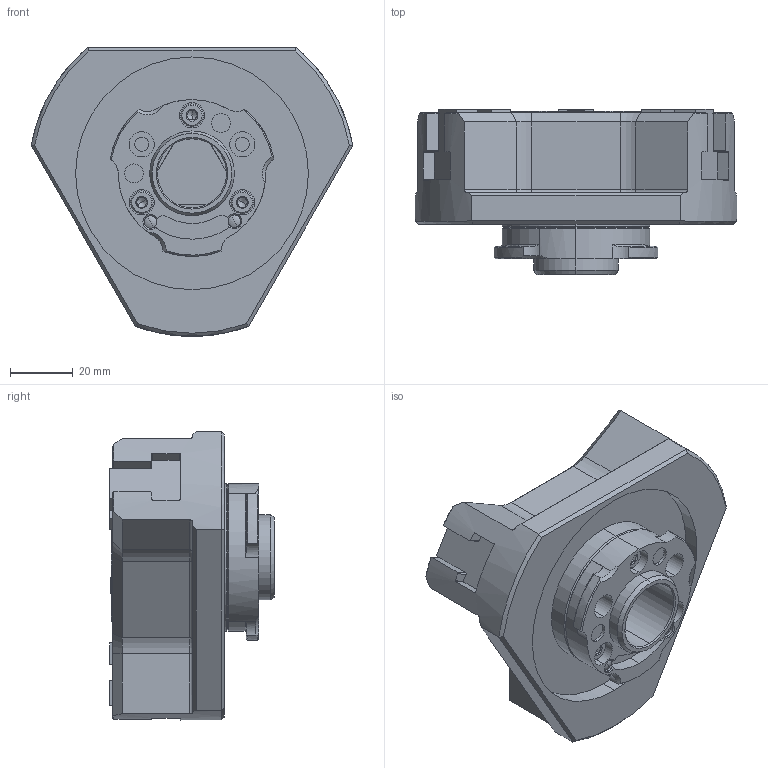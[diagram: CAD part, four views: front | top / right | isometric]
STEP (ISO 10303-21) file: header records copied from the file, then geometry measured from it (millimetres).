
FILE_DESCRIPTION (( 'STEP AP214' ), '1' );
FILE_NAME ('HP-QGL30610-Assy-61G856542-20241125-HCL.STEP', '2024-11-25T02:51:00', ( '' ), ( '' ), 'SwSTEP 2.0', 'SolidWorks 2022', '' );
FILE_SCHEMA (( 'AUTOMOTIVE_DESIGN' ));
Length unit declared in the file: millimetre
Products named in the file (8): COVER^HP-QGL30610; BODY^HP-QGL30610; BOLT^HP-QGL30610; KNOCK PIN^HP-QGL30610; MASTER JAW^HP-QGL30610; RING^HP-QGL30610; HP-QGL30610-Assy-61G856542-20241125-HCL; S-SARA^HP-QGL30610
Assembly tree (14 placements, depth 2):
  HP-QGL30610-Assy-61G856542-20241125-HCL
    BODY^HP-QGL30610
    MASTER JAW^HP-QGL30610  x3
    RING^HP-QGL30610
    COVER^HP-QGL30610
    BOLT^HP-QGL30610  x3
    S-SARA^HP-QGL30610  x3
    KNOCK PIN^HP-QGL30610  x2
Bounding box: 102.51 x 52.6 x 91.92 mm (x, y, z)
Volume: 165965 mm3; surface area: 56626.1 mm2
Topology: 14 solids, 14 shells, 1627 faces, 4477 edges, 2925 vertices
Faces by surface type: plane 1143, cylinder 189, bspline 153, cone 123, torus 15, sphere 4
Entity records: 53083 total; most frequent: CARTESIAN_POINT 16698, ORIENTED_EDGE 8002, DIRECTION 6543, EDGE_CURVE 4001, LINE 3209, VECTOR 3209, VERTEX_POINT 2638, AXIS2_PLACEMENT_3D 1667
